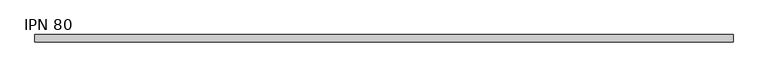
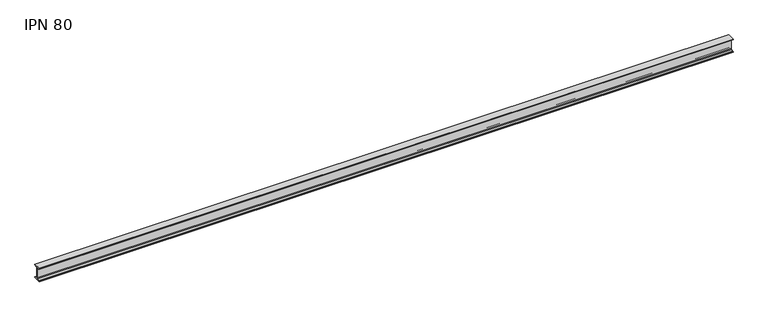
"""IFC4 building model written with IfcOpenShell, lengths in millimetres: beam geometry, IPN - Secciones en I con alas cónicas : IPN 80."""

from ifc_helpers import new_model, si_unit, point, frame, frame_2d, origin, place, context, project, spatial, polyline, circle_curve, trimmed, segment, composite_curve, outline, extrude, source, transform, mapped, element, save


def ipn_80_1ac3ab99(model_context):
    return source(origin(), model_context, "Body", "SweptSolid", [
        extrude(outline(composite_curve([segment(polyline([(21.0, 40.0), (21.0, 37.5704306)]), True, "CONTINUOUS"), segment(trimmed(circle_curve(frame_2d((18.7, 37.5704306)), 2.3), [point((21.0, 37.5704306))], [point((19.01889, 35.2926446))], False, "CARTESIAN"), True, "CONTINUOUS"), segment(polyline([(19.01889, 35.2926446), (5.3092734, 33.3732983)]), True, "CONTINUOUS"), segment(trimmed(circle_curve(frame_2d((5.85, 29.5109655)), 3.9), [point((5.3092734, 33.3732983))], [point((1.95, 29.5109655))], True, "CARTESIAN"), True, "CONTINUOUS"), segment(polyline([(1.95, 29.5109655), (1.95, -29.5109655)]), True, "CONTINUOUS"), segment(trimmed(circle_curve(frame_2d((5.85, -29.5109655)), 3.9), [point((1.95, -29.5109655))], [point((5.3092734, -33.3732983))], True, "CARTESIAN"), True, "CONTINUOUS"), segment(polyline([(5.3092734, -33.3732983), (19.01889, -35.2926446)]), True, "CONTINUOUS"), segment(trimmed(circle_curve(frame_2d((18.7, -37.5704306)), 2.3), [point((19.01889, -35.2926446))], [point((21.0, -37.5704306))], False, "CARTESIAN"), True, "CONTINUOUS"), segment(polyline([(21.0, -37.5704306), (21.0, -40.0), (-21.0, -40.0), (-21.0, -37.5704306)]), True, "CONTINUOUS"), segment(trimmed(circle_curve(frame_2d((-18.7, -37.5704306)), 2.3), [point((-21.0, -37.5704306))], [point((-19.01889, -35.2926446))], False, "CARTESIAN"), True, "CONTINUOUS"), segment(polyline([(-19.01889, -35.2926446), (-5.3092734, -33.3732983)]), True, "CONTINUOUS"), segment(trimmed(circle_curve(frame_2d((-5.85, -29.5109655)), 3.9), [point((-5.3092734, -33.3732983))], [point((-1.95, -29.5109655))], True, "CARTESIAN"), True, "CONTINUOUS"), segment(polyline([(-1.95, -29.5109655), (-1.95, 29.5109655)]), True, "CONTINUOUS"), segment(trimmed(circle_curve(frame_2d((-5.85, 29.5109655)), 3.9), [point((-1.95, 29.5109655))], [point((-5.3092734, 33.3732983))], True, "CARTESIAN"), True, "CONTINUOUS"), segment(polyline([(-5.3092734, 33.3732983), (-19.01889, 35.2926446)]), True, "CONTINUOUS"), segment(trimmed(circle_curve(frame_2d((-18.7, 37.5704306)), 2.3), [point((-19.01889, 35.2926446))], [point((-21.0, 37.5704306))], False, "CARTESIAN"), True, "CONTINUOUS"), segment(polyline([(-21.0, 37.5704306), (-21.0, 40.0), (21.0, 40.0)]), True, "CONTINUOUS")], self_intersect=False)), frame((-1983.85, 0.0, 0.0), z_axis=(1.0, 0.0, 0.0), x_axis=(0.0, 1.0, 0.0)), (0.0, 0.0, 1.0), 3973.65),
    ])


if __name__ == "__main__":
    model = new_model("IFC4")
    model_context = context("Model", 3, world=origin())
    ifc_project = project(units=[si_unit("LENGTHUNIT", "METRE", prefix="MILLI")], contexts=[model_context])
    site = spatial("IfcSite", under=ifc_project)
    building = spatial("IfcBuilding", under=site)
    placement = place(None, origin())
    ipn_80_shape = ipn_80_1ac3ab99(model_context)
    element("IfcBeam", 1, ObjectType="IPN - Secciones en I con alas cónicas : IPN 80", at=placement, inside=building, context=model_context, shape_type="MappedRepresentation", body=[
        mapped(ipn_80_shape, transform((0.0, 0.0, 0.0), x_axis=(1.0, 0.0, 0.0), y_axis=(0.0, 1.0, 0.0), z_axis=(0.0, 0.0, 1.0))),
    ])
    save(model, "model.ifc")
